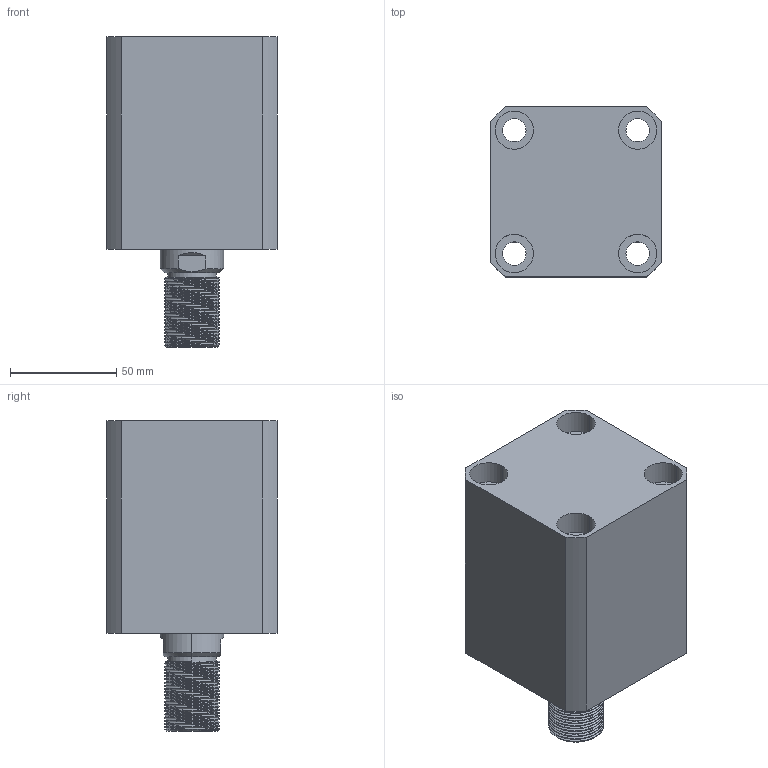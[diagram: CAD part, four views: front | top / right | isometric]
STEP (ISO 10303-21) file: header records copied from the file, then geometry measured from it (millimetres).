
FILE_DESCRIPTION (( 'STEP AP203' ), '1' );
FILE_NAME ('CHTB-SD50-40W.STEP', '2018-05-18T12:33:21', ( '' ), ( '' ), 'SwSTEP 2.0', 'SolidWorks 2015', '' );
FILE_SCHEMA (( 'CONFIG_CONTROL_DESIGN' ));
Length unit declared in the file: millimetre
Products named in the file (4): CHTB-SD50-40W; 活塞杆SD50-40W; CHTM-SD50QG; 掛极SD50-40W
Assembly tree (3 placements, depth 2):
  CHTB-SD50-40W
    掛极SD50-40W
    活塞杆SD50-40W
    CHTM-SD50QG
Bounding box: 80 x 80 x 146 mm (x, y, z)
Volume: 546911.1 mm3; surface area: 109430.4 mm2
Topology: 3 solids, 3 shells, 236 faces, 627 edges, 419 vertices
Faces by surface type: cylinder 144, plane 41, cone 19, bspline 16, torus 16
Entity records: 14613 total; most frequent: CARTESIAN_POINT 8784, ORIENTED_EDGE 1246, DIRECTION 1029, EDGE_CURVE 623, AXIS2_PLACEMENT_3D 422, VERTEX_POINT 419, EDGE_LOOP 276, ADVANCED_FACE 236
